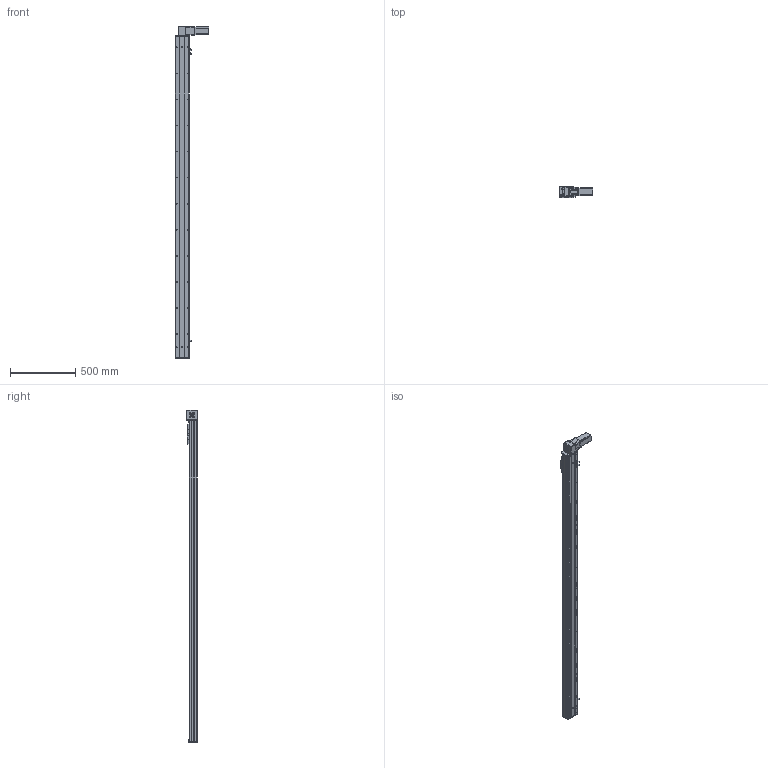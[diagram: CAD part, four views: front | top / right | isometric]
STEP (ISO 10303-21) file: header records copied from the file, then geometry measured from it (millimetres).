
FILE_DESCRIPTION (( 'STEP AP203' ), '1' );
FILE_NAME ('Y10CB-D90-S2200-BD-P400W.STEP', '2020-02-17T02:59:03', ( '微软用户' ), ( '微软中国' ), 'SwSTEP 2.0', 'SolidWorks 2017', '' );
FILE_SCHEMA (( 'CONFIG_CONTROL_DESIGN' ));
Length unit declared in the file: millimetre
Products named in the file (16): Y10CB- 掛极耜裔啣-毀---; Y10C---詩湍揤啣; 0CB-雄赽釱---; 10CB9-掛极; 0Cb-俋欶---; 10CB-耜裔; Y10B-々湍喘謫眊楊擘啣--; Y135C-陔俋离換覜結え-; san松下电机400不带刹车----; Y100-135俋离換覜ん--; 0B-源倛裔啣; Y10B--々湍喘謫眊--666; 0B-埴倛裔啣; 0B-薊粣ん眊; 10CB-詩湍-; Y10CB-D90-S2200-BD-P400W
Assembly tree (19 placements, depth 2):
  Y10CB-D90-S2200-BD-P400W
    0CB-雄赽釱---
    0Cb-俋欶---
    Y10B-々湍喘謫眊楊擘啣--
    san松下电机400不带刹车----
    0B-源倛裔啣
    0B-埴倛裔啣
    10CB-詩湍-
    Y10CB- 掛极耜裔啣-毀---  x2
    Y10C---詩湍揤啣  x2
    10CB9-掛极
    10CB-耜裔
    Y135C-陔俋离換覜結え-
    Y100-135俋离換覜ん--  x3
    Y10B--々湍喘謫眊--666
    0B-薊粣ん眊
Bounding box: 258 x 80.5 x 2546 mm (x, y, z)
Volume: 5230182.7 mm3; surface area: 2424299.9 mm2
Topology: 19 solids, 19 shells, 972 faces, 2622 edges, 1700 vertices
Faces by surface type: cylinder 500, plane 448, cone 24
Entity records: 30569 total; most frequent: CARTESIAN_POINT 5792, DIRECTION 4865, ORIENTED_EDGE 4714, EDGE_CURVE 2357, AXIS2_PLACEMENT_3D 1743, VERTEX_POINT 1526, LINE 1379, VECTOR 1379
